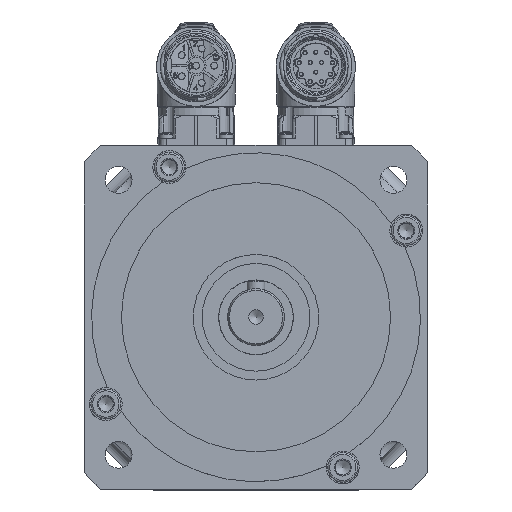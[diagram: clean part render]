
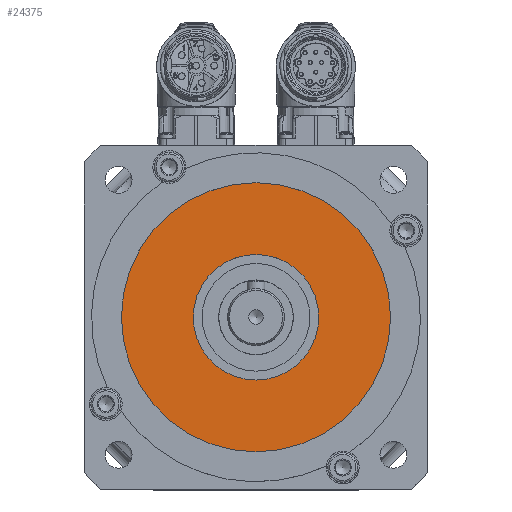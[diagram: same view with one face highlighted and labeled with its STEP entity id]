
A CAD part, top view. The second image highlights one B-rep face of the part: STEP entity #24375.
In plain terms, the highlighted planar face has unit normal (0, 0, 1).
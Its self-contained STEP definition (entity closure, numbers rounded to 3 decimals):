
#2250=FACE_BOUND('',#7873,.T.);
#2251=FACE_BOUND('',#7874,.T.);
#2785=PLANE('',#26166);
#7873=EDGE_LOOP('',(#18438));
#7874=EDGE_LOOP('',(#18439));
#9642=CIRCLE('',#26164,21.);
#9643=CIRCLE('',#26167,45.);
#11778=VERTEX_POINT('',#36387);
#11779=VERTEX_POINT('',#36391);
#14387=EDGE_CURVE('',#11778,#11778,#9642,.T.);
#14388=EDGE_CURVE('',#11779,#11779,#9643,.T.);
#18438=ORIENTED_EDGE('',*,*,#14387,.T.);
#18439=ORIENTED_EDGE('',*,*,#14388,.F.);
#24375=ADVANCED_FACE('',(#2250,#2251),#2785,.T.);
#26164=AXIS2_PLACEMENT_3D('',#36388,#29611,#29612);
#26166=AXIS2_PLACEMENT_3D('',#36390,#29615,#29616);
#26167=AXIS2_PLACEMENT_3D('',#36392,#29617,#29618);
#29611=DIRECTION('center_axis',(0.,0.,-1.));
#29612=DIRECTION('ref_axis',(-1.,0.,0.));
#29615=DIRECTION('center_axis',(0.,0.,1.));
#29616=DIRECTION('ref_axis',(1.,0.,0.));
#29617=DIRECTION('center_axis',(0.,0.,-1.));
#29618=DIRECTION('ref_axis',(-1.,0.,0.));
#36387=CARTESIAN_POINT('',(21.,0.,11.5));
#36388=CARTESIAN_POINT('Origin',(0.,0.,11.5));
#36390=CARTESIAN_POINT('Origin',(0.,0.,
11.5));
#36391=CARTESIAN_POINT('',(45.,0.,11.5));
#36392=CARTESIAN_POINT('Origin',(0.,0.,11.5));
